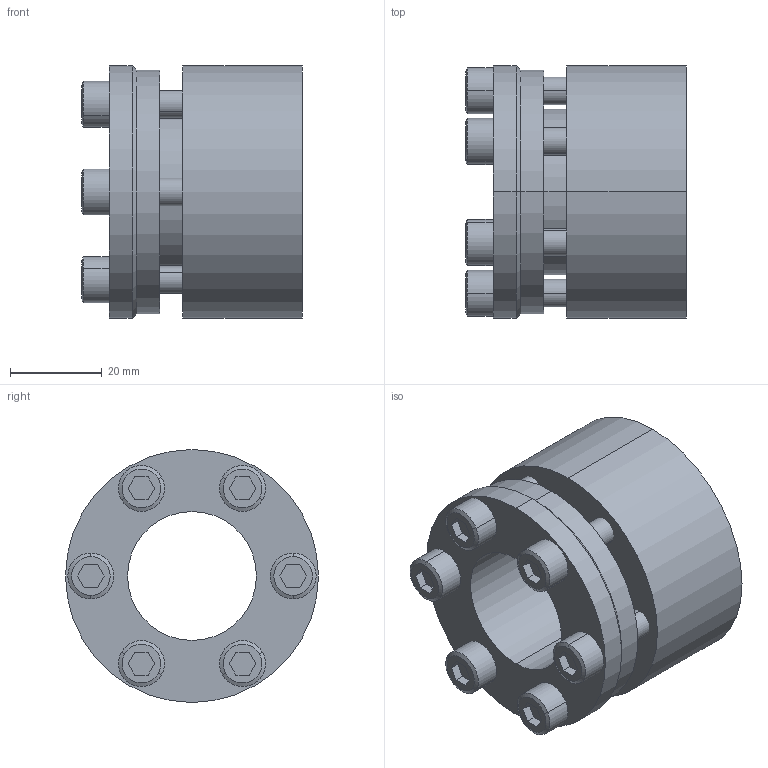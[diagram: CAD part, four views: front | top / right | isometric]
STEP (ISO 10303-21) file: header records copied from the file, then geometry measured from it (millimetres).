
FILE_DESCRIPTION (( 'STEP AP203' ), '1' );
FILE_NAME ('SD-28.step', '2009-09-29T16:28:36', ( 'USER' ), ( 'HOME' ), 'SwSTEP 2.0', 'SolidWorks 2007', '' );
FILE_SCHEMA (( 'CONFIG_CONTROL_DESIGN' ));
Length unit declared in the file: millimetre
Products named in the file (1): SD-28
Bounding box: 48 x 55 x 55 mm (x, y, z)
Volume: 68790.8 mm3; surface area: 24934 mm2
Topology: 7 solids, 7 shells, 136 faces, 308 edges, 200 vertices
Faces by surface type: plane 64, cylinder 58, cone 14
Entity records: 3949 total; most frequent: DIRECTION 710, CARTESIAN_POINT 645, ORIENTED_EDGE 616, EDGE_CURVE 308, AXIS2_PLACEMENT_3D 265, VERTEX_POINT 200, VECTOR 180, LINE 180
